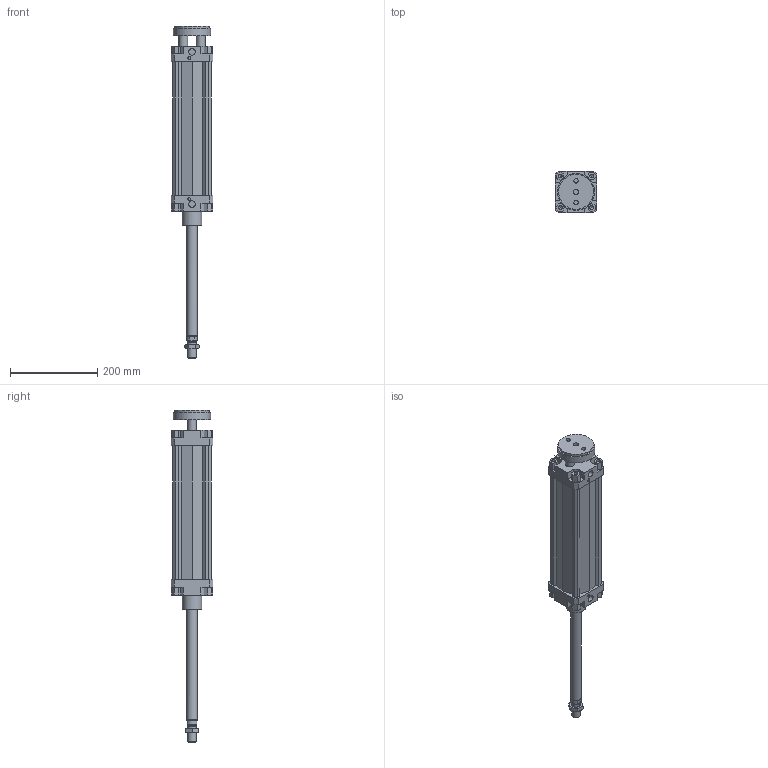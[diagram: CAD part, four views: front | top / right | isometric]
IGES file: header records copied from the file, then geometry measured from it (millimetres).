
Global section: file name: 132#_080_0250_02; native system: Autodesk Inventor 2014; preprocessor: unknown; author: A. Manieri; date: 20161006.162419; units: millimetre
Bounding box: 95 x 95 x 760 mm (x, y, z)
Volume: 1906859.9 mm3; surface area: 384411.4 mm2
Topology: 3 solids, 3 shells, 220 faces, 589 edges, 397 vertices
Faces by surface type: bspline 220
